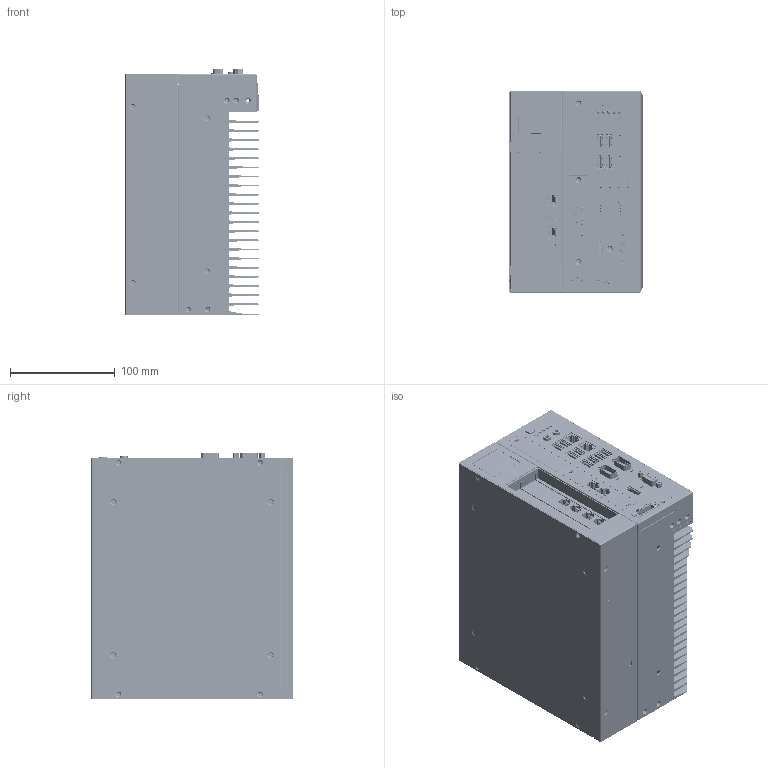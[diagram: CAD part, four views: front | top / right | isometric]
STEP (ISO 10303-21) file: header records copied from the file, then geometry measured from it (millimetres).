
FILE_DESCRIPTION((''),'2;1');
FILE_NAME('0000601663_ASM','2023-05-08T09:44:13',('11000804'),(''),'CREO PARAMETRIC BY PTC INC, 2019030','CREO PARAMETRIC BY PTC INC, 2019030','');
FILE_SCHEMA(('AUTOMOTIVE_DESIGN { 1 0 10303 214 1 1 1 1 }'));
Products named in the file (4): 0000592122_ASM; 0000057258; 0000601793; 0000601663_ASM
Assembly tree (5 placements, depth 2):
  0000601663_ASM
    0000592122_ASM
    0000057258  x3
    0000601793
Bounding box: 127 x 192 x 235.17 mm (x, y, z)
Volume: 2784043.9 mm3; surface area: 672399.6 mm2
Topology: 16 solids, 25 shells, 9920 faces, 27571 edges, 18121 vertices
Faces by surface type: plane 7824, cylinder 1708, cone 154, torus 108, sphere 52, extrusion 44, bspline 30
Entity records: 625872 total; most frequent: CARTESIAN_POINT 267243, ORIENTED_EDGE 50126, DIRECTION 47524, POLYLINE 42144, PRESENTATION_STYLE_ASSIGNMENT 25172, CURVE_STYLE 25145, STYLED_ITEM 25112, EDGE_CURVE 25063
